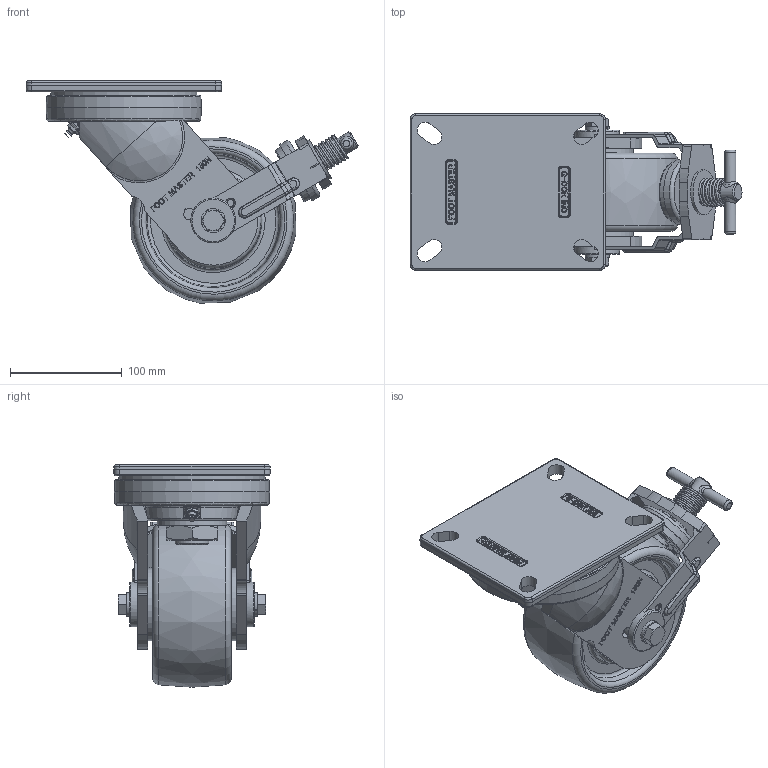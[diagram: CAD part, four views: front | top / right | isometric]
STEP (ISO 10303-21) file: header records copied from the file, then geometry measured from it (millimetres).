
FILE_DESCRIPTION(/* description */ (''),/* implementation_level */ '2;1');
FILE_NAME(/* name */ 'Y:\1.기술연구소\2.연구개발 진행중\133.고하중캐스터 브레이크 타입 변경건_2025.11.03\1.도면\4.홈페이지용 도면\01. 3D\GXT-150 SERIES\GXT-150-STEP\GXT-150N-BSF-NYD.stp',/* time_stamp */ '2026-07-22T08:13:43+09:00',/* author */ ('장용하'),/* organization */ (''),/* preprocessor_version */ 'ST-DEVELOPER v18.1',/* originating_system */ 'Autodesk Inventor 2021',/* authorisation */ '');
FILE_SCHEMA (('CONFIG_CONTROL_DESIGN'));
Products named in the file (1): GXT-150N-BSF-NYD
Bounding box: 297.09 x 140 x 198.98 mm (x, y, z)
Volume: 2174750 mm3; surface area: 237677.6 mm2
Topology: 1 solids, 2 shells, 2100 faces, 5663 edges, 3712 vertices
Faces by surface type: plane 1029, bspline 749, cylinder 214, torus 61, cone 43, sphere 4
Full cylindrical faces by diameter (mm): 4 x1, 10 x1, 10.2 x1, 12 x2, 13 x2, 16 x1, 20 x1, 30 x1, 31.606 x1, 37.448 x2, 40 x3, 54 x2, 58 x1, 62.5 x1, 65 x2, 131.086 x1
Entity records: 71696 total; most frequent: CARTESIAN_POINT 23652, ORIENTED_EDGE 11320, DIRECTION 7562, EDGE_CURVE 5660, VERTEX_POINT 3711, LINE 3302, VECTOR 3302, EDGE_LOOP 2275
